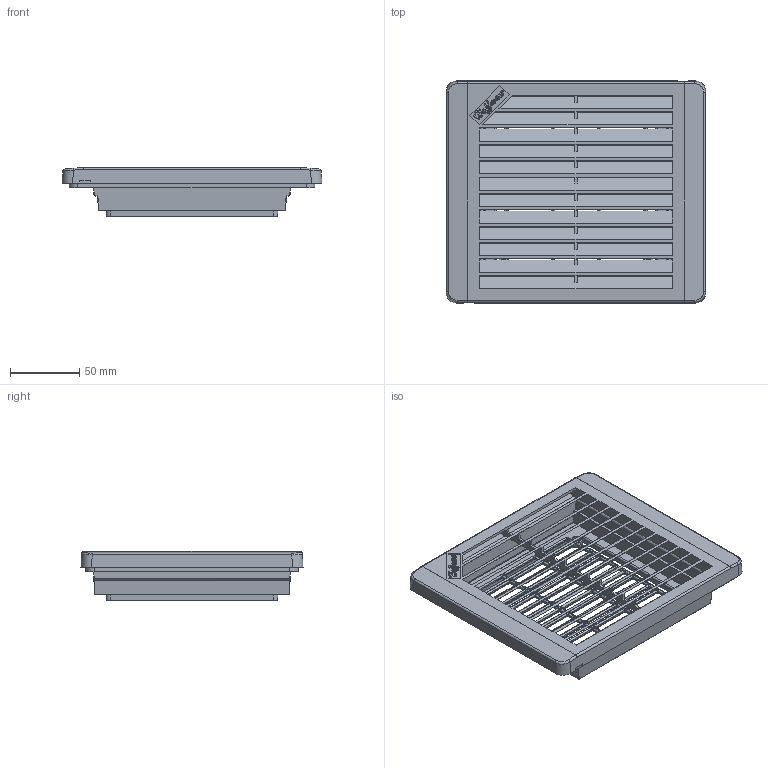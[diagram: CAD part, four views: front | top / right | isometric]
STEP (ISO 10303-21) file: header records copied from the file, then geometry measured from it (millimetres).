
FILE_DESCRIPTION(( 'STEP AP214 file generated by I-DEAS Master Series'),'2;1');
FILE_NAME('D:\a00150\t-ep4ul12.stp','2002-06-05T09:24:04',('A00150'),( 'unspecified'),'I-DEAS Master Series 7m2 : Design', 'I-DEAS Master Series 7m2 : Design','unspecified');
FILE_SCHEMA(('AUTOMOTIVE_DESIGN_CC2 { 1 2 10303 214 -1 1 5 3 }'));
Length unit declared in the file: inch
Products named in the file (4): 4_inch_pkg_bbs; 87555312; 87559979; gskt_type_12_4in_fan
Assembly tree (3 placements, depth 2):
  4_inch_pkg_bbs
    87555312
    87559979
    gskt_type_12_4in_fan
Bounding box: 187.07 x 159.87 x 35.38 mm (x, y, z)
Volume: 162879.7 mm3; surface area: 175311.9 mm2
Topology: 3 solids, 3 shells, 1882 faces, 4605 edges, 2741 vertices
Faces by surface type: bspline 1882
Entity records: 65442 total; most frequent: CARTESIAN_POINT 40274, ORIENTED_EDGE 8970, EDGE_CURVE 4485, VERTEX_POINT 2540, EDGE_LOOP 1979, FACE_OUTER_BOUND 1882, ADVANCED_FACE 1882, B_SPLINE_CURVE_WITH_KNOTS 1681
